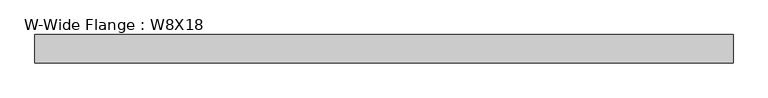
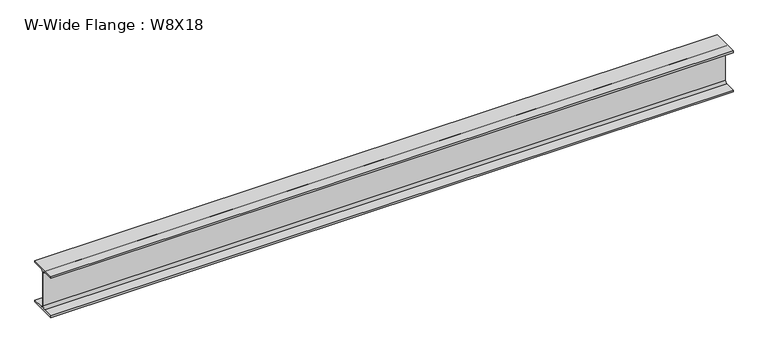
"""IFC4 building model written with IfcOpenShell, lengths in millimetres: beam geometry, W-Wide Flange : W8X18."""

import ifcopenshell
import ifcopenshell.guid

model = None  # the IFC model being written
_history = None  # IfcOwnerHistory: only IFC2X3 demands one
_inside = {}  # id of a spatial element -> (the spatial element, [elements in it])
_under = {}  # id of a project, library or spatial element -> (it, [spatial elements below it])
_declared = {}  # id of a project -> (the project, [libraries it declares])
_typed = {}  # id of a type object -> (the type object, [elements of that type])
_made_of = {}  # id of a material, layer set ... -> (it, [elements and type objects made of it])


def new_model(schema):
    """Start an empty IFC model of exactly this schema.

    Asked for "IFC4X3", IfcOpenShell would pick the latest addendum, in which some entities
    have other attributes; the version numbers below select the first issue.
    IFC2X3 requires an IfcOwnerHistory on every rooted entity: one is made here for all.
    """
    global model, _history
    if schema == "IFC4X3":
        model = ifcopenshell.file(schema_version=(4, 3, 0, 0))
    else:
        model = ifcopenshell.file(schema=schema)
    _inside.clear()
    _under.clear()
    _declared.clear()
    _typed.clear()
    _made_of.clear()
    _history = None
    if model.schema == "IFC2X3":
        org = make("IfcOrganization", Name="unknown")
        user = make(
            "IfcPersonAndOrganization",
            ThePerson=make("IfcPerson", FamilyName="unknown"),
            TheOrganization=org,
        )
        app = make(
            "IfcApplication",
            ApplicationDeveloper=org,
            Version="unknown",
            ApplicationFullName="unknown",
            ApplicationIdentifier="unknown",
        )
        _history = make(
            "IfcOwnerHistory",
            OwningUser=user,
            OwningApplication=app,
            ChangeAction="ADDED",
            CreationDate=0,
        )
    return model


def make(cls, **values):
    """One entity of the class cls with the attributes given. An attribute that is None is left unset."""
    return model.create_entity(
        cls, **{name: value for name, value in values.items() if value is not None}
    )


def rooted(cls, **values):
    """An entity with a GlobalId (a new one), such as an element, a storey or a relation."""
    return make(cls, GlobalId=ifcopenshell.guid.new(), OwnerHistory=_history, **values)


def si_unit(unit_type, name, prefix=None):
    """IfcSIUnit, for example si_unit("LENGTHUNIT", "METRE", prefix="MILLI")."""
    return make("IfcSIUnit", UnitType=unit_type, Prefix=prefix, Name=name)


def assignment(units):
    """IfcUnitAssignment: the units of a project."""
    return None if units is None else make("IfcUnitAssignment", Units=units)


def point(xyz):
    """IfcCartesianPoint."""
    return None if xyz is None else make("IfcCartesianPoint", Coordinates=xyz)


def direction(xyz):
    """IfcDirection."""
    return None if xyz is None else make("IfcDirection", DirectionRatios=xyz)


def frame(location, z_axis=None, x_axis=None):
    """IfcAxis2Placement3D, a coordinate frame: its origin and axes. An axis left out is left unset."""
    return make(
        "IfcAxis2Placement3D",
        Location=point(location),
        Axis=direction(z_axis),
        RefDirection=direction(x_axis),
    )


def frame_2d(location, x_axis=None):
    """IfcAxis2Placement2D, a coordinate frame in the plane: its origin and x axis."""
    return make(
        "IfcAxis2Placement2D", Location=point(location), RefDirection=direction(x_axis)
    )


def origin():
    """The frame at (0, 0, 0) with its axes left unset."""
    return frame((0.0, 0.0, 0.0))


def place(relative_to, where):
    """IfcLocalPlacement: puts the frame where relative to a parent placement (None: the world)."""
    return make(
        "IfcLocalPlacement", PlacementRelTo=relative_to, RelativePlacement=where
    )


def context(
    kind, dimensions, precision=None, world=None, true_north=None, identifier=None
):
    """IfcGeometricRepresentationContext, for example the 3D "Model" context."""
    return make(
        "IfcGeometricRepresentationContext",
        ContextIdentifier=identifier,
        ContextType=kind,
        CoordinateSpaceDimension=dimensions,
        Precision=precision,
        WorldCoordinateSystem=world,
        TrueNorth=true_north,
    )


def project(units=None, contexts=None):
    """IfcProject with its units and contexts."""
    return rooted(
        "IfcProject",
        Name="project",
        RepresentationContexts=contexts,
        UnitsInContext=assignment(units),
    )


def spatial(cls, under=None, at=None, **own):
    """A site, building, storey or space (cls), placed at a placement, below another one or the project."""
    s = rooted(cls, ObjectPlacement=at, **own)
    if under is not None:
        _under.setdefault(under.id(), (under, []))[1].append(s)
    return s


def polyline(points):
    """IfcPolyline through the points."""
    return make("IfcPolyline", Points=[point(p) for p in points])


def circle_curve(where, radius):
    """IfcCircle in the frame where."""
    return make("IfcCircle", Position=where, Radius=radius)


def trimmed(basis, trim1, trim2, sense, master):
    """IfcTrimmedCurve: the piece of a basis curve between two trims."""
    return make(
        "IfcTrimmedCurve",
        BasisCurve=basis,
        Trim1=trim1,
        Trim2=trim2,
        SenseAgreement=sense,
        MasterRepresentation=master,
    )


def segment(curve, same_sense, transition):
    """IfcCompositeCurveSegment."""
    return make(
        "IfcCompositeCurveSegment",
        Transition=transition,
        SameSense=same_sense,
        ParentCurve=curve,
    )


def composite_curve(segments, self_intersect=None):
    """IfcCompositeCurve: segments joined end to end."""
    return make("IfcCompositeCurve", Segments=segments, SelfIntersect=self_intersect)


def outline(outer, holes=None, kind="AREA"):
    """IfcArbitraryClosedProfileDef: a profile drawn as a closed curve; with holes, ...WithVoids."""
    if holes is None:
        return make("IfcArbitraryClosedProfileDef", ProfileType=kind, OuterCurve=outer)
    return make(
        "IfcArbitraryProfileDefWithVoids",
        ProfileType=kind,
        OuterCurve=outer,
        InnerCurves=holes,
    )


def extrude(swept, where, along, depth):
    """IfcExtrudedAreaSolid: the profile swept, set in the frame where, extruded along a direction by depth."""
    return make(
        "IfcExtrudedAreaSolid",
        SweptArea=swept,
        Position=where,
        ExtrudedDirection=direction(along),
        Depth=depth,
    )


def shape(context_of_items, identifier, shape_type, items):
    """IfcShapeRepresentation: the items that make up one representation, for example the "Body"."""
    return make(
        "IfcShapeRepresentation",
        ContextOfItems=context_of_items,
        RepresentationIdentifier=identifier,
        RepresentationType=shape_type,
        Items=items,
    )


def source(mapping_origin, context_of_items, identifier, shape_type, items):
    """IfcRepresentationMap: a shape defined once, which mapped items show again and again."""
    return make(
        "IfcRepresentationMap",
        MappingOrigin=mapping_origin,
        MappedRepresentation=shape(context_of_items, identifier, shape_type, items),
    )


def transform(
    local_origin,
    x_axis=None,
    y_axis=None,
    z_axis=None,
    scale=None,
    scale2=None,
    scale3=None,
    uniform=True,
):
    """IfcCartesianTransformationOperator3D, or its non-uniform kind. x_axis, y_axis, z_axis: its Axis1, 2, 3."""
    if uniform:
        return make(
            "IfcCartesianTransformationOperator3D",
            Axis1=direction(x_axis),
            Axis2=direction(y_axis),
            LocalOrigin=point(local_origin),
            Scale=scale,
            Axis3=direction(z_axis),
        )
    return make(
        "IfcCartesianTransformationOperator3DnonUniform",
        Axis1=direction(x_axis),
        Axis2=direction(y_axis),
        LocalOrigin=point(local_origin),
        Scale=scale,
        Axis3=direction(z_axis),
        Scale2=scale2,
        Scale3=scale3,
    )


def mapped(mapping_source, mapping_target):
    """IfcMappedItem: shows the shape of a source again, moved by a transform."""
    return make(
        "IfcMappedItem", MappingSource=mapping_source, MappingTarget=mapping_target
    )


def made_of(thing, what):
    """Note that an element or type object is made of a material, layer set ...; save() writes the relation."""
    if what is not None:
        _made_of.setdefault(what.id(), (what, []))[1].append(thing)
    return thing


def element(
    cls,
    number,
    at=None,
    inside=None,
    cuts=None,
    type_object=None,
    material=None,
    context=None,
    identifier="Body",
    shape_type=None,
    held_by="IfcProductDefinitionShape",
    body=None,
    shapes=None,
    **own,
):
    """One element of the class cls, such as IfcWall. Its Tag is "e" and its number.

    at: its placement. inside: the storey or other place that contains it. cuts: it is an
    opening in that element (IfcRelVoidsElement). A single representation is given by context,
    identifier, shape_type and body (its items); several are given by shapes. held_by: the class
    of the entity that holds the representations. save() writes the other relations.
    """
    e = rooted(cls, Tag="e%d" % number, ObjectPlacement=at, **own)
    if body is not None:
        shapes = [shape(context, identifier, shape_type, body)]
    if shapes is not None:
        e.Representation = make(held_by, Representations=shapes)
    if inside is not None:
        _inside.setdefault(inside.id(), (inside, []))[1].append(e)
    if cuts is not None:
        rooted(
            "IfcRelVoidsElement", RelatingBuildingElement=cuts, RelatedOpeningElement=e
        )
    if type_object is not None:
        _typed.setdefault(type_object.id(), (type_object, []))[1].append(e)
    return made_of(e, material)


def aggregate(whole, parts):
    """IfcRelAggregates: a whole, such as a stair, and the parts it consists of."""
    return rooted("IfcRelAggregates", RelatingObject=whole, RelatedObjects=parts)


def save(model, path):
    """Write the relations noted so far, then the file.

    IfcRelAggregates (storeys below a building ...), IfcRelContainedInSpatialStructure (elements
    in a storey), IfcRelDefinesByType, IfcRelAssociatesMaterial and IfcRelDeclares: one each for
    every whole, place, type object, material and project.
    """
    for whole, parts in _under.values():
        aggregate(whole, parts)
    for where, things in _inside.values():
        rooted(
            "IfcRelContainedInSpatialStructure",
            RelatedElements=things,
            RelatingStructure=where,
        )
    for kind, things in _typed.values():
        rooted("IfcRelDefinesByType", RelatedObjects=things, RelatingType=kind)
    for what, things in _made_of.values():
        rooted("IfcRelAssociatesMaterial", RelatedObjects=things, RelatingMaterial=what)
    for by, libraries in _declared.values():
        rooted("IfcRelDeclares", RelatingContext=by, RelatedDefinitions=libraries)
    model.write(path)


def w_wide_flange_w8x18_c4c3ec7c(model_context):
    return source(origin(), model_context, "Body", "SweptSolid", [
        extrude(outline(composite_curve([segment(polyline([(66.675, -94.996), (66.675, -103.378), (-66.675, -103.378), (-66.675, -94.996), (-15.1765, -94.996)]), True, "CONTINUOUS"), segment(trimmed(circle_curve(frame_2d((-15.1765, -82.7405)), 12.2555), [point((-15.1765, -94.996))], [point((-2.921, -82.7405))], True, "CARTESIAN"), True, "CONTINUOUS"), segment(polyline([(-2.921, -82.7405), (-2.921, 82.7405)]), True, "CONTINUOUS"), segment(trimmed(circle_curve(frame_2d((-15.1765, 82.7405)), 12.2555), [point((-2.921, 82.7405))], [point((-15.1765, 94.996))], True, "CARTESIAN"), True, "CONTINUOUS"), segment(polyline([(-15.1765, 94.996), (-66.675, 94.996), (-66.675, 103.378), (66.675, 103.378), (66.675, 94.996), (15.1765, 94.996)]), True, "CONTINUOUS"), segment(trimmed(circle_curve(frame_2d((15.1765, 82.7405)), 12.2555), [point((15.1765, 94.996))], [point((2.921, 82.7405))], True, "CARTESIAN"), True, "CONTINUOUS"), segment(polyline([(2.921, 82.7405), (2.921, -82.7405)]), True, "CONTINUOUS"), segment(trimmed(circle_curve(frame_2d((15.1765, -82.7405)), 12.2555), [point((2.921, -82.7405))], [point((15.1765, -94.996))], True, "CARTESIAN"), True, "CONTINUOUS"), segment(polyline([(15.1765, -94.996), (66.675, -94.996)]), True, "CONTINUOUS")], self_intersect=False)), frame((-1531.8878906, 0.0, 0.0), z_axis=(1.0, 0.0, 0.0), x_axis=(0.0, 1.0, 0.0)), (0.0, 0.0, 1.0), 3263.6023437),
    ])


if __name__ == "__main__":
    model = new_model("IFC4")
    model_context = context("Model", 3, world=origin())
    ifc_project = project(units=[si_unit("LENGTHUNIT", "METRE", prefix="MILLI")], contexts=[model_context])
    site = spatial("IfcSite", under=ifc_project)
    building = spatial("IfcBuilding", under=site)
    placement = place(None, origin())
    w_wide_flange_w8x18_shape = w_wide_flange_w8x18_c4c3ec7c(model_context)
    element("IfcBeam", 1, ObjectType="W-Wide Flange : W8X18", at=placement, inside=building, context=model_context, shape_type="MappedRepresentation", body=[
        mapped(w_wide_flange_w8x18_shape, transform((0.0, 0.0, 0.0), x_axis=(1.0, 0.0, 0.0), y_axis=(0.0, 1.0, 0.0), z_axis=(0.0, 0.0, 1.0))),
    ])
    save(model, "model.ifc")
